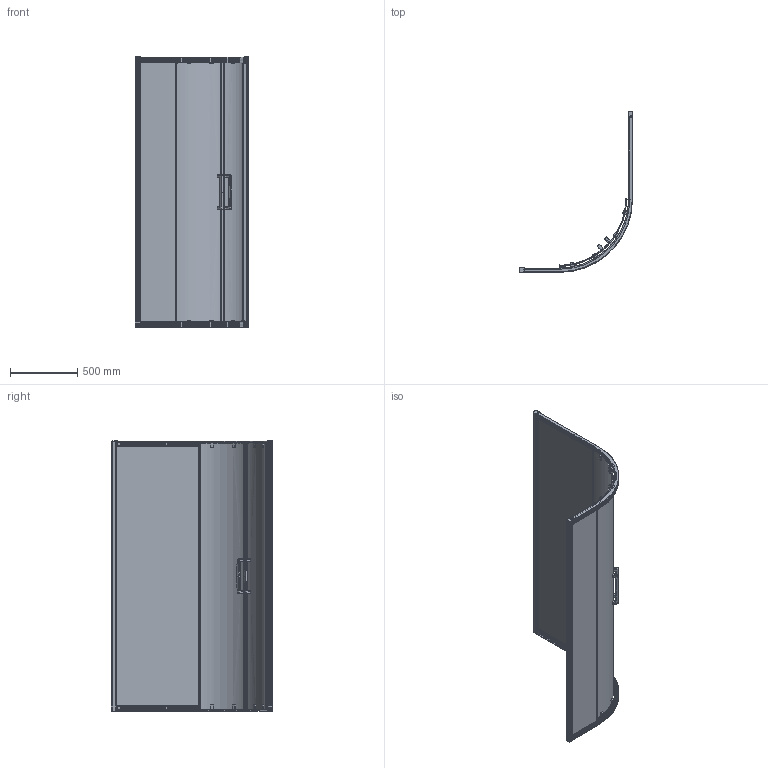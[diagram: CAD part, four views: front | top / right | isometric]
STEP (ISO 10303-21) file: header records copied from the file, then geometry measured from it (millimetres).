
FILE_DESCRIPTION(/* description */ (''),/* implementation_level */ '2;1');
FILE_NAME(/* name */ 'D:\Работа\Сергей\! Готово\Документация и модели всех серий\KUBELE динамические модели и набор документов\18 NEW\KÜBELE DE018RB\KÜBELE DE018RB-3D.stp',/* time_stamp */ '2019-06-20T19:31:04+03:00',/* author */ ('User'),/* organization */ (''),/* preprocessor_version */ 'ST-DEVELOPER v15.2',/* originating_system */ 'Autodesk Inventor 2014',/* authorisation */ '');
FILE_SCHEMA (('CONFIG_CONTROL_DESIGN'));
Products named in the file (1): KÜBELE DE018RB-3D
Bounding box: 844.9 x 1194.9 x 2002.5 mm (x, y, z)
Volume: 28207474.6 mm3; surface area: 8578527.7 mm2
Topology: 1 solids, 1 shells, 3094 faces, 8757 edges, 5548 vertices
Faces by surface type: plane 1599, cylinder 878, bspline 199, torus 164, sphere 128, cone 126
Full cylindrical faces by diameter (mm): 3 x20, 4 x12, 5 x4, 10 x8
Entity records: 126625 total; most frequent: CARTESIAN_POINT 43756, ORIENTED_EDGE 17322, DIRECTION 16110, EDGE_CURVE 8631, VERTEX_POINT 5506, AXIS2_PLACEMENT_3D 5418, LINE 5274, VECTOR 5274
